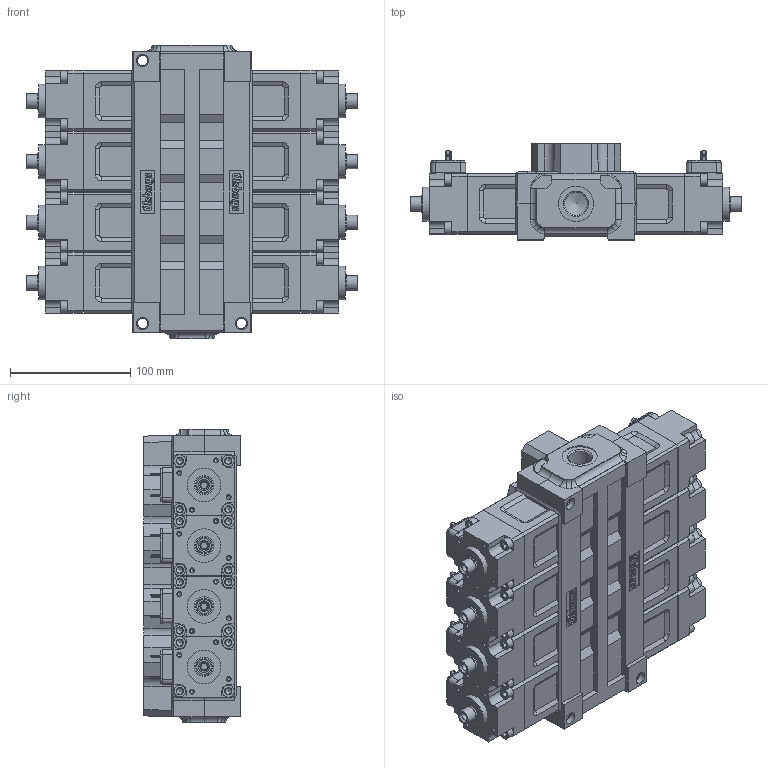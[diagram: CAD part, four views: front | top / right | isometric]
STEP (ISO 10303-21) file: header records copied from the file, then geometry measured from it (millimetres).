
FILE_DESCRIPTION (( 'STEP AP203' ), '1' );
FILE_NAME ('S-98000.STEP', '2013-02-12T07:33:38', ( '.' ), ( 'Olsbergs Hydraulics' ), 'SwSTEP 2.0', 'SolidWorks 2011', '' );
FILE_SCHEMA (( 'CONFIG_CONTROL_DESIGN' ));
Products named in the file (1): S-98000
Bounding box: 274 x 80 x 244 mm (x, y, z)
Volume: 2988189.8 mm3; surface area: 423311.1 mm2
Topology: 69 solids, 69 shells, 3736 faces, 9796 edges, 6407 vertices
Faces by surface type: plane 2113, cylinder 722, bspline 465, cone 388, torus 48
Full cylindrical faces by diameter (mm): 1.6 x16, 3.3 x32, 5 x24, 6 x48, 6.1 x16, 6.5 x40, 6.8 x8, 8.5 x11, 9.6 x16, 10 x16, 10.2 x3, 12 x8, 12.8 x8, 15 x9, 16 x16, 18 x16, 19 x4, 24.2 x9, 28 x8, 29.2 x4, 43.3 x8
Entity records: 125431 total; most frequent: CARTESIAN_POINT 40434, ORIENTED_EDGE 17840, DIRECTION 15507, EDGE_CURVE 8920, VERTEX_POINT 6200, AXIS2_PLACEMENT_3D 5175, LINE 5157, VECTOR 5157
